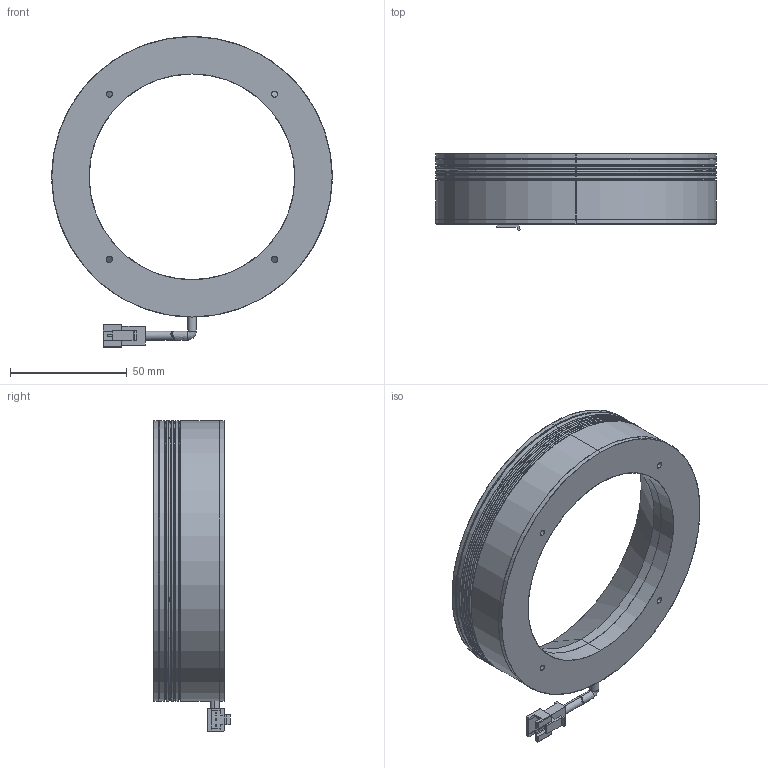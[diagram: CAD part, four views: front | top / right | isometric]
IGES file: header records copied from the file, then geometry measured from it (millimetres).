
Start section: SolidWorks IGES file using analytic representation for surfaces
Global section: file name: E:\SynologyDrive\新款图纸\标准产品\环光\环光60\R12060-88\ED\R12060-88.IGS; native system: SolidWorks 2020; preprocessor: SolidWorks 2020; author: Administrator; date: 200827.114617; units: millimetre
Bounding box: 120 x 32.7 x 133 mm (x, y, z)
Surface area: 73646.2 mm2 (no closed solid volume)
Topology: 0 solids, 0 shells, 346 faces, 5010 edges, 4978 vertices
Faces by surface type: bspline 186, revolution 160
